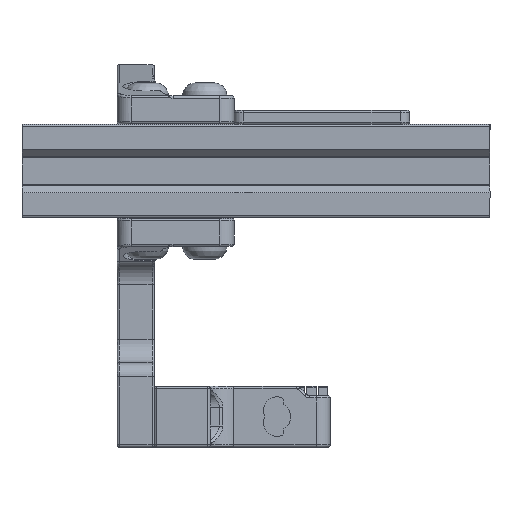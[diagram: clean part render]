
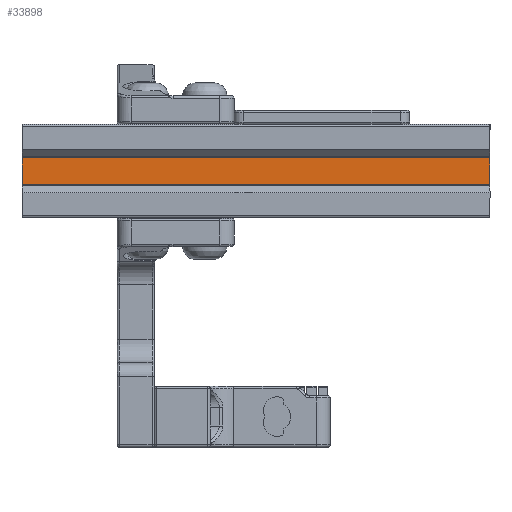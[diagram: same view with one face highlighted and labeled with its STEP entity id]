
A CAD part, front view. The second image highlights one B-rep face of the part: STEP entity #33898.
In plain terms, the highlighted planar face has unit normal (0, -1, 0).
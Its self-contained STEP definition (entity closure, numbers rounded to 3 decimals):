
#2520=PLANE('',#37195);
#4527=LINE('',#113255,#7245);
#4647=LINE('',#113506,#7365);
#4648=LINE('',#113509,#7366);
#4649=LINE('',#113510,#7367);
#7245=VECTOR('',#44219,10.);
#7365=VECTOR('',#44457,10.);
#7366=VECTOR('',#44460,10.);
#7367=VECTOR('',#44461,10.);
#10660=FACE_OUTER_BOUND('',#12734,.T.);
#12734=EDGE_LOOP('',(#30167,#30168,#30169,#30170));
#16570=VERTEX_POINT('',#113252);
#16571=VERTEX_POINT('',#113254);
#16643=VERTEX_POINT('',#113504);
#16644=VERTEX_POINT('',#113508);
#21150=EDGE_CURVE('',#16570,#16571,#4527,.T.);
#21276=EDGE_CURVE('',#16570,#16643,#4647,.T.);
#21277=EDGE_CURVE('',#16644,#16643,#4648,.F.);
#21278=EDGE_CURVE('',#16571,#16644,#4649,.T.);
#30167=ORIENTED_EDGE('',*,*,#21150,.F.);
#30168=ORIENTED_EDGE('',*,*,#21276,.T.);
#30169=ORIENTED_EDGE('',*,*,#21277,.F.);
#30170=ORIENTED_EDGE('',*,*,#21278,.F.);
#33898=ADVANCED_FACE('',(#10660),#2520,.T.);
#37195=AXIS2_PLACEMENT_3D('',#113507,#44458,#44459);
#44219=DIRECTION('',(0.,0.,1.));
#44457=DIRECTION('',(1.,0.,0.));
#44458=DIRECTION('center_axis',(0.,-1.,0.));
#44459=DIRECTION('ref_axis',(0.,0.,-1.));
#44460=DIRECTION('',(0.,0.,1.));
#44461=DIRECTION('',(1.,0.,0.));
#113252=CARTESIAN_POINT('',(-107.175,-113.923,-93.239));
#113254=CARTESIAN_POINT('',(-107.175,-113.923,-87.549));
#113255=CARTESIAN_POINT('',(-107.175,-113.923,-88.972));
#113504=CARTESIAN_POINT('',(-7.175,-113.923,-93.239));
#113506=CARTESIAN_POINT('',(-157.175,-113.923,-93.239));
#113507=CARTESIAN_POINT('Origin',(-157.175,-113.923,-87.549));
#113508=CARTESIAN_POINT('',(-7.175,-113.923,-87.549));
#113509=CARTESIAN_POINT('',(-7.175,-113.923,-88.972));
#113510=CARTESIAN_POINT('',(-157.175,-113.923,-87.549));
